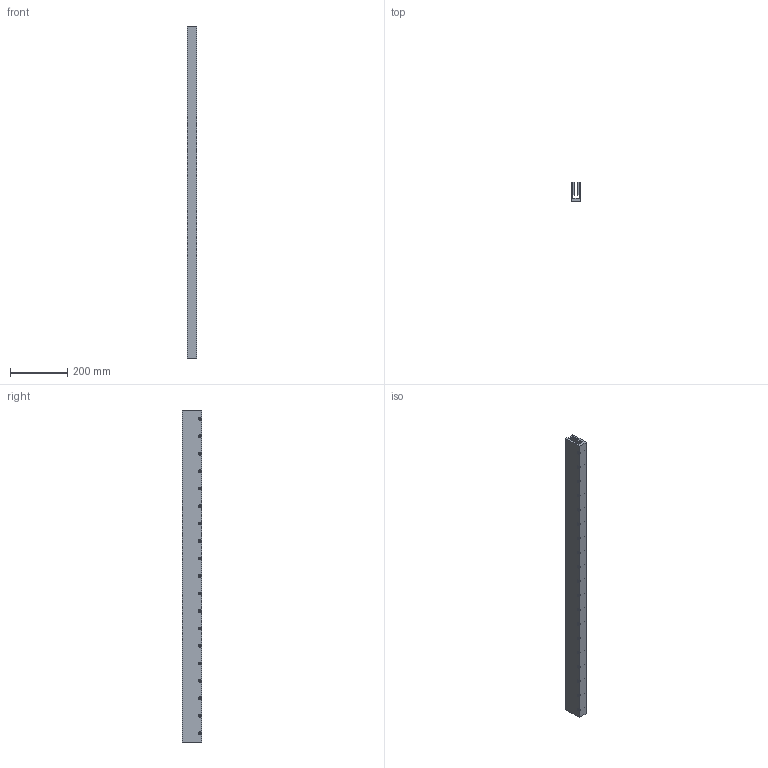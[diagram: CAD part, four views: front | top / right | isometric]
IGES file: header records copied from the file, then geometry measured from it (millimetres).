
Global section: file name: No Iges File Name specified; native system: Autodesk Inventor 2012; preprocessor: AutoDesk Inventor Iges Exporter R2012; author: je17857; date: 20120511.155714; units: inch
Bounding box: 34.29 x 67.31 x 1157.99 mm (x, y, z)
Volume: 1721972.6 mm3; surface area: 438761.6 mm2
Topology: 1 solids, 1 shells, 485 faces, 1107 edges, 738 vertices
Faces by surface type: plane 428, revolution 57
